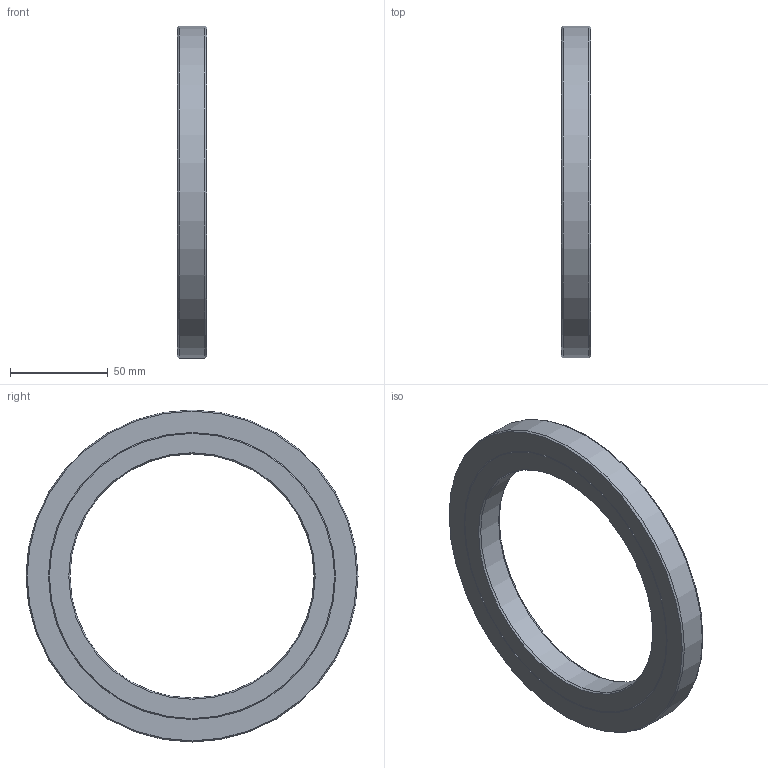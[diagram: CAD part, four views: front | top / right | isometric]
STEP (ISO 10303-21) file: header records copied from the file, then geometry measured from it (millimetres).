
FILE_DESCRIPTION(/* description */ (''),/* implementation_level */ '2;1');
FILE_NAME(/* name */ '301729 S125x170x15.stp',/* time_stamp */ '2016-12-16T14:10:44+01:00',/* author */ (''),/* organization */ (''),/* preprocessor_version */ 'ST-DEVELOPER v15',/* originating_system */ 'SIEMENS PLM Software NX 8.5',/* authorisation */ '');
FILE_SCHEMA (('CONFIG_CONTROL_DESIGN'));
Length unit declared in the file: millimetre
Products named in the file (1): ATE0000143_01
Bounding box: 15 x 170 x 170 mm (x, y, z)
Volume: 152213.6 mm3; surface area: 51603.1 mm2
Topology: 2 solids, 2 shells, 16 faces, 30 edges, 18 vertices
Faces by surface type: cone 10, plane 4, cylinder 2
Full cylindrical faces by diameter (mm): 125 x1, 170 x1
Entity records: 414 total; most frequent: DIRECTION 66, CARTESIAN_POINT 49, AXIS2_PLACEMENT_3D 33, FACE_BOUND 32, EDGE_LOOP 32, ORIENTED_EDGE 32, ADVANCED_FACE 16, VERTEX_POINT 16
